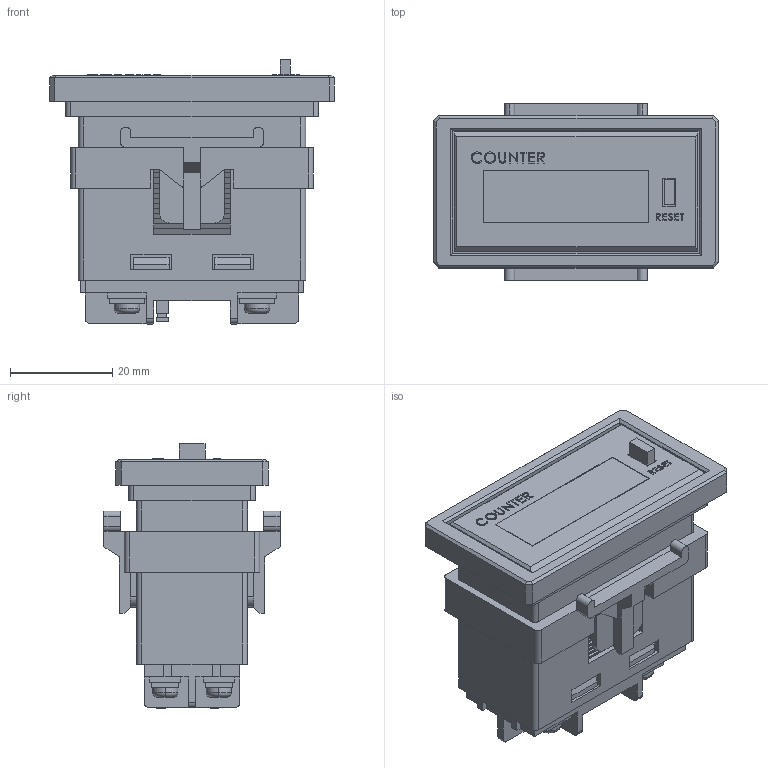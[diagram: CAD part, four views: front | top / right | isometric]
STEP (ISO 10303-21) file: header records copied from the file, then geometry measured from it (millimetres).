
FILE_DESCRIPTION (( 'STEP AP203' ), '1' );
FILE_NAME ('LC7.STEP', '2019-02-13T20:28:02', ( '' ), ( '' ), 'SwSTEP 2.0', 'SolidWorks 2012', '' );
FILE_SCHEMA (( 'CONFIG_CONTROL_DESIGN' ));
Length unit declared in the file: millimetre
Products named in the file (1): LC7
Bounding box: 55.8 x 34.5 x 51.75 mm (x, y, z)
Volume: 48911.5 mm3; surface area: 15254.1 mm2
Topology: 1 solids, 1 shells, 701 faces, 1901 edges, 1254 vertices
Faces by surface type: plane 580, bspline 69, cylinder 44, torus 8
Entity records: 25638 total; most frequent: CARTESIAN_POINT 8366, ORIENTED_EDGE 3802, DIRECTION 3085, EDGE_CURVE 1901, VECTOR 1595, LINE 1595, VERTEX_POINT 1254, EDGE_LOOP 753
